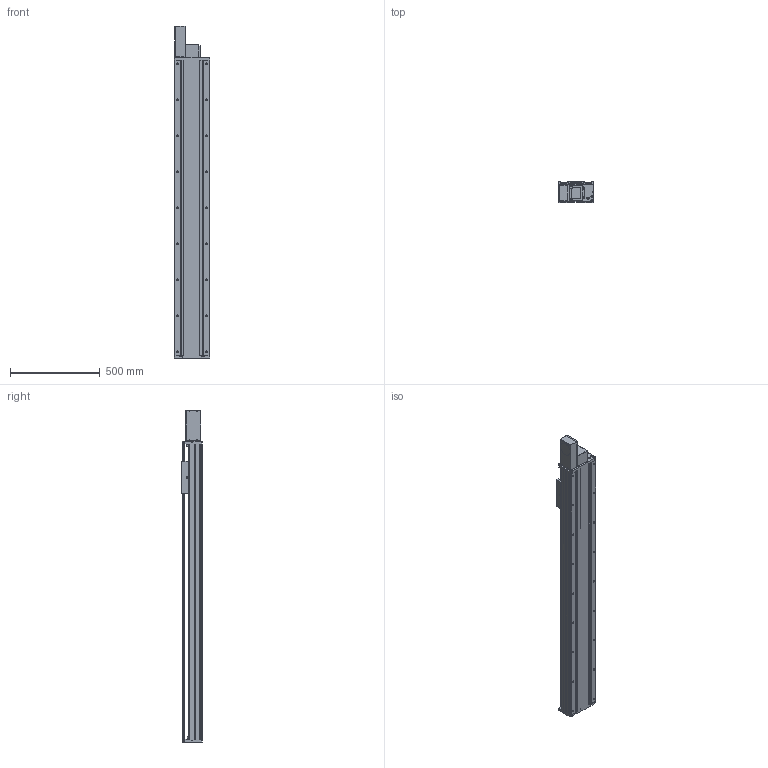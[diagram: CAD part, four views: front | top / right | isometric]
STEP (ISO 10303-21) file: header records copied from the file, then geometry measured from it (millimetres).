
FILE_DESCRIPTION(/* description */ (''),/* implementation_level */ '2;1');
FILE_NAME(/* name */ 'TKB200-FR-1400_asm1.stp',/* time_stamp */ '2016-05-18T11:36:02+08:00',/* author */ (''),/* organization */ (''),/* preprocessor_version */ 'ST-DEVELOPER v15',/* originating_system */ 'SIEMENS PLM Software NX 8.5',/* authorisation */ '');
FILE_SCHEMA (('AUTOMOTIVE_DESIGN { 1 0 10303 214 3 1 1 1 }'));
Length unit declared in the file: millimetre
Products named in the file (3): 200-2; 200-1; TKB200-FR-1400_asm1
Assembly tree (2 placements, depth 2):
  TKB200-FR-1400_asm1
    200-1
    200-2
Bounding box: 200 x 115 x 1845 mm (x, y, z)
Volume: 10639381.1 mm3; surface area: 3368261.6 mm2
Topology: 2 solids, 3 shells, 1053 faces, 3017 edges, 1943 vertices
Faces by surface type: cylinder 492, plane 475, cone 70, bspline 16
Full cylindrical faces by diameter (mm): 2.5 x2, 3.3 x16, 4.3 x4, 4.5 x8, 5 x2, 6.6 x34, 6.8 x8, 8 x6, 9 x26, 10 x4, 11 x22, 12 x16, 14 x18, 75 x1
Entity records: 36572 total; most frequent: CARTESIAN_POINT 9981, DIRECTION 5421, ORIENTED_EDGE 5358, EDGE_CURVE 2679, AXIS2_PLACEMENT_3D 1970, VERTEX_POINT 1844, LINE 1481, VECTOR 1481
